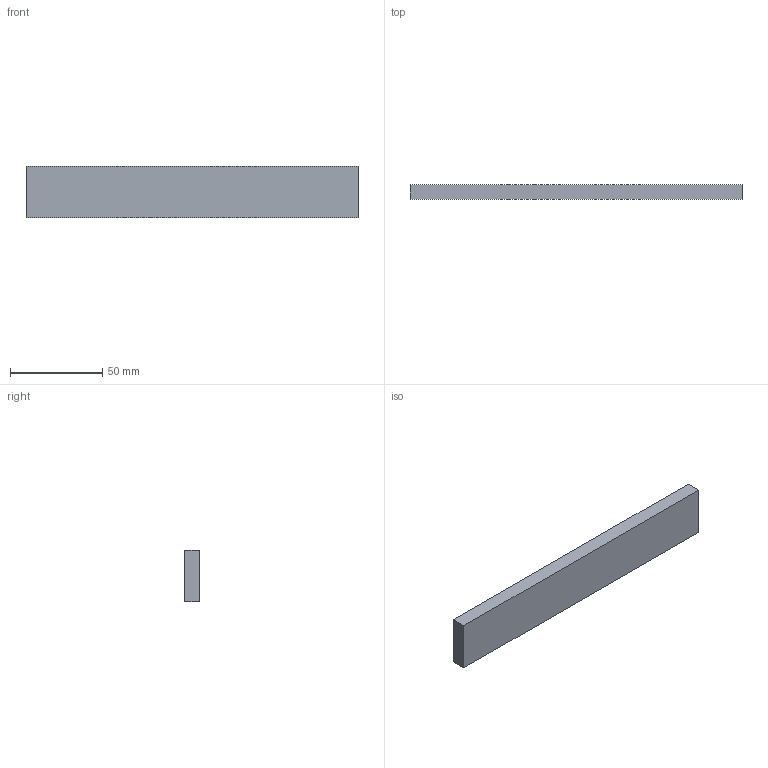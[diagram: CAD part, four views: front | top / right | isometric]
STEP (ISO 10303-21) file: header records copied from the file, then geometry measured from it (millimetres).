
FILE_DESCRIPTION(('Open CASCADE Model'),'2;1');
FILE_NAME('Open CASCADE Shape Model','2026-10-04T02:31:45',('Author'),( 'Open CASCADE'),'Open CASCADE STEP processor 8.0','Open CASCADE 8.0' ,'Unknown');
FILE_SCHEMA(('AUTOMOTIVE_DESIGN { 1 0 10303 214 1 1 1 1 }'));
Length unit declared in the file: millimetre
Products named in the file (1): Open CASCADE STEP translator 8.0 340
Bounding box: 180 x 8 x 28 mm (x, y, z)
Volume: 40320 mm3; surface area: 13408 mm2
Topology: 1 solids, 1 shells, 6 faces, 12 edges, 8 vertices
Faces by surface type: plane 6
Entity records: 322 total; most frequent: CARTESIAN_POINT 51, DIRECTION 50, LINE 36, VECTOR 36, ORIENTED_EDGE 24, PCURVE 24, DEFINITIONAL_REPRESENTATION 24, EDGE_CURVE 12
